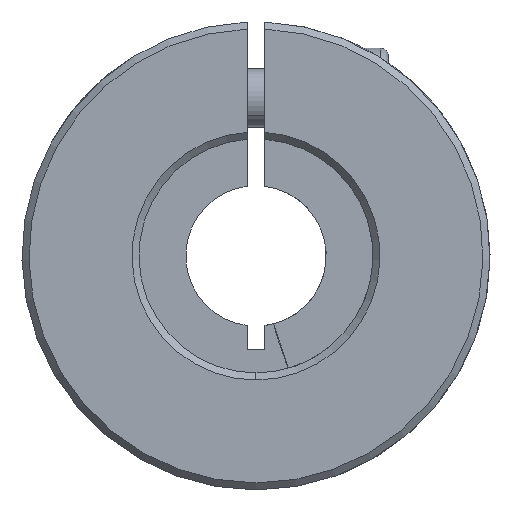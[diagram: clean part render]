
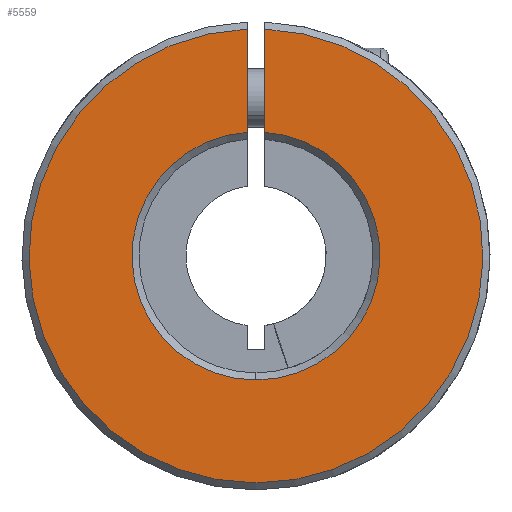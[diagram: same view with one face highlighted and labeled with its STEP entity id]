
A CAD part, front view. The second image highlights one B-rep face of the part: STEP entity #5559.
In plain terms, the highlighted planar face has unit normal (0, -1, 0).
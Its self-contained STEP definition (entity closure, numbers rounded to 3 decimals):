
#5 = CARTESIAN_POINT ( 'NONE',  ( 0., -25., -10.6 ) ) ;
#67 = DIRECTION ( 'NONE',  ( 0., 1., 0. ) ) ;
#108 = CARTESIAN_POINT ( 'NONE',  ( -0.75, -25., 10.573 ) ) ;
#184 = DIRECTION ( 'NONE',  ( 0., 0., -1. ) ) ;
#233 = CARTESIAN_POINT ( 'NONE',  ( 0., -25., 0. ) ) ;
#365 = VECTOR ( 'NONE', #4955, 1000. ) ;
#489 = FACE_OUTER_BOUND ( 'NONE', #5847, .T. ) ;
#612 = CIRCLE ( 'NONE', #2063, 10.6 ) ;
#859 = LINE ( 'NONE', #3148, #365 ) ;
#892 = DIRECTION ( 'NONE',  ( 0., -1., 0. ) ) ;
#1024 = VERTEX_POINT ( 'NONE', #1045 ) ;
#1029 = AXIS2_PLACEMENT_3D ( 'NONE', #1802, #892, #2750 ) ;
#1045 = CARTESIAN_POINT ( 'NONE',  ( 0.75, -25., 10.573 ) ) ;
#1241 = AXIS2_PLACEMENT_3D ( 'NONE', #3322, #4593, #5133 ) ;
#1316 = AXIS2_PLACEMENT_3D ( 'NONE', #233, #67, #4889 ) ;
#1358 = CARTESIAN_POINT ( 'NONE',  ( 0., -25., 0. ) ) ;
#1559 = CARTESIAN_POINT ( 'NONE',  ( 0.75, -25., -8. ) ) ;
#1802 = CARTESIAN_POINT ( 'NONE',  ( 0., -25., 0. ) ) ;
#2063 = AXIS2_PLACEMENT_3D ( 'NONE', #1358, #2328, #4167 ) ;
#2296 = EDGE_CURVE ( 'NONE', #5466, #1024, #2453, .T. ) ;
#2328 = DIRECTION ( 'NONE',  ( 0., 1., 0. ) ) ;
#2453 = LINE ( 'NONE', #1559, #4329 ) ;
#2750 = DIRECTION ( 'NONE',  ( 0., 0., 1. ) ) ;
#2764 = PLANE ( 'NONE',  #1241 ) ;
#3148 = CARTESIAN_POINT ( 'NONE',  ( -0.75, -25., -8. ) ) ;
#3322 = CARTESIAN_POINT ( 'NONE',  ( 0., -25., 0. ) ) ;
#3433 = ORIENTED_EDGE ( 'NONE', *, *, #5887, .T. ) ;
#3492 = ORIENTED_EDGE ( 'NONE', *, *, #5246, .T. ) ;
#3500 = VERTEX_POINT ( 'NONE', #108 ) ;
#3673 = VERTEX_POINT ( 'NONE', #5 ) ;
#3733 = EDGE_CURVE ( 'NONE', #3500, #5048, #859, .T. ) ;
#3753 = CARTESIAN_POINT ( 'NONE',  ( -0.75, -25., 19.385 ) ) ;
#4167 = DIRECTION ( 'NONE',  ( 0., 0., 1. ) ) ;
#4329 = VECTOR ( 'NONE', #184, 1000. ) ;
#4429 = ORIENTED_EDGE ( 'NONE', *, *, #5196, .T. ) ;
#4593 = DIRECTION ( 'NONE',  ( 0., 1., 0. ) ) ;
#4873 = CIRCLE ( 'NONE', #1316, 10.6 ) ;
#4889 = DIRECTION ( 'NONE',  ( 0., 0., 1. ) ) ;
#4947 = CARTESIAN_POINT ( 'NONE',  ( 0.75, -25., 19.385 ) ) ;
#4955 = DIRECTION ( 'NONE',  ( 0., 0., 1. ) ) ;
#5048 = VERTEX_POINT ( 'NONE', #3753 ) ;
#5133 = DIRECTION ( 'NONE',  ( 0., 0., 1. ) ) ;
#5165 = CIRCLE ( 'NONE', #1029, 19.4 ) ;
#5196 = EDGE_CURVE ( 'NONE', #5048, #5466, #5165, .T. ) ;
#5246 = EDGE_CURVE ( 'NONE', #1024, #3673, #4873, .T. ) ;
#5356 = ORIENTED_EDGE ( 'NONE', *, *, #3733, .T. ) ;
#5391 = ORIENTED_EDGE ( 'NONE', *, *, #2296, .T. ) ;
#5466 = VERTEX_POINT ( 'NONE', #4947 ) ;
#5559 = ADVANCED_FACE ( 'NONE', ( #489 ), #2764, .F. ) ;
#5847 = EDGE_LOOP ( 'NONE', ( #5391, #3492, #3433, #5356, #4429 ) ) ;
#5887 = EDGE_CURVE ( 'NONE', #3673, #3500, #612, .T. ) ;
